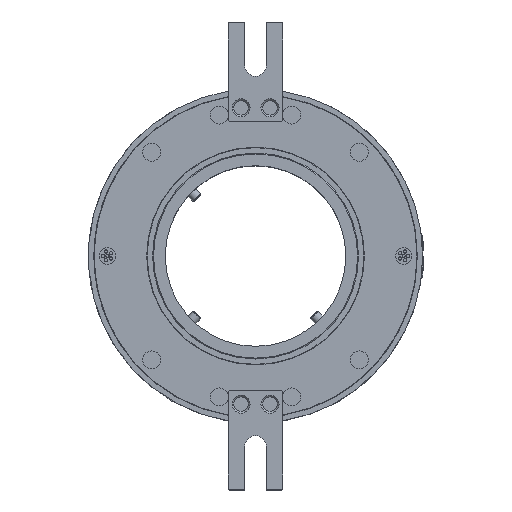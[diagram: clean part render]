
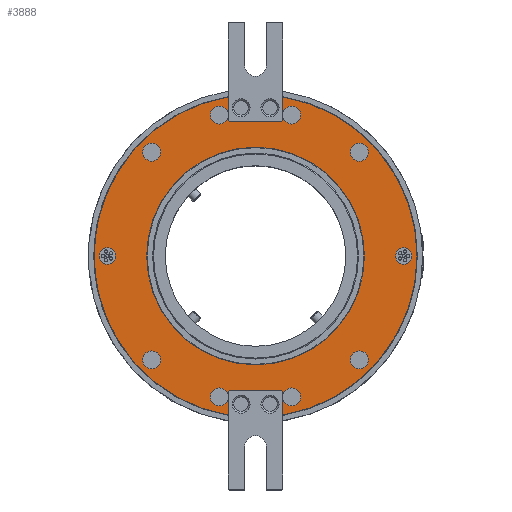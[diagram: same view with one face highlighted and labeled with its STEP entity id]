
A CAD part, top view. The second image highlights one B-rep face of the part: STEP entity #3888.
In plain terms, the highlighted planar face has unit normal (0, 0, 1).
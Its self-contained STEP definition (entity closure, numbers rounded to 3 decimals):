
#3080=FACE_BOUND('',#5857,.T.);
#3081=FACE_BOUND('',#5858,.T.);
#3082=FACE_BOUND('',#5859,.T.);
#3083=FACE_BOUND('',#5860,.T.);
#3084=FACE_BOUND('',#5861,.T.);
#3085=FACE_BOUND('',#5862,.T.);
#3086=FACE_BOUND('',#5863,.T.);
#3087=FACE_BOUND('',#5864,.T.);
#3352=PLANE('',#17178);
#3888=ADVANCED_FACE('',(#3080,#3081,#3082,#3083,#3084,#3085,#3086,#3087),
#3352,.T.);
#5857=EDGE_LOOP('',(#9321));
#5858=EDGE_LOOP('',(#9322));
#5859=EDGE_LOOP('',(#9323));
#5860=EDGE_LOOP('',(#9324));
#5861=EDGE_LOOP('',(#9325));
#5862=EDGE_LOOP('',(#9326));
#5863=EDGE_LOOP('',(#9327,#9328,#9329,#9330,#9331,#9332,#9333,#9334,#9335,
#9336,#9337,#9338,#9339,#9340,#9341,#9342,#9343,#9344,#9345,#9346));
#5864=EDGE_LOOP('',(#9347));
#6736=LINE('',#23456,#7156);
#6739=LINE('',#23462,#7159);
#6741=LINE('',#23466,#7161);
#6743=LINE('',#23479,#7163);
#6746=LINE('',#23485,#7166);
#6748=LINE('',#23489,#7168);
#6750=LINE('',#23508,#7170);
#6751=LINE('',#23509,#7171);
#6770=LINE('',#23550,#7190);
#6771=LINE('',#23551,#7191);
#6772=LINE('',#23553,#7192);
#6773=LINE('',#23554,#7193);
#6792=LINE('',#23592,#7212);
#6793=LINE('',#23593,#7213);
#7156=VECTOR('',#18211,1.);
#7159=VECTOR('',#18216,1.);
#7161=VECTOR('',#18220,1.);
#7163=VECTOR('',#18238,1.);
#7166=VECTOR('',#18243,1.);
#7168=VECTOR('',#18247,1.);
#7170=VECTOR('',#18271,1.);
#7171=VECTOR('',#18272,1.);
#7190=VECTOR('',#18315,1.);
#7191=VECTOR('',#18316,1.);
#7192=VECTOR('',#18319,1.);
#7193=VECTOR('',#18320,1.);
#7212=VECTOR('',#18357,1.);
#7213=VECTOR('',#18358,1.);
#9321=ORIENTED_EDGE('',*,*,#14807,.T.);
#9322=ORIENTED_EDGE('',*,*,#14806,.T.);
#9323=ORIENTED_EDGE('',*,*,#14805,.T.);
#9324=ORIENTED_EDGE('',*,*,#14804,.T.);
#9325=ORIENTED_EDGE('',*,*,#14803,.T.);
#9326=ORIENTED_EDGE('',*,*,#15370,.T.);
#9327=ORIENTED_EDGE('',*,*,#14808,.F.);
#9328=ORIENTED_EDGE('',*,*,#14801,.T.);
#9329=ORIENTED_EDGE('',*,*,#14799,.F.);
#9330=ORIENTED_EDGE('',*,*,#14796,.T.);
#9331=ORIENTED_EDGE('',*,*,#14832,.F.);
#9332=ORIENTED_EDGE('',*,*,#14795,.T.);
#9333=ORIENTED_EDGE('',*,*,#14831,.F.);
#9334=ORIENTED_EDGE('',*,*,#14793,.F.);
#9335=ORIENTED_EDGE('',*,*,#14834,.F.);
#9336=ORIENTED_EDGE('',*,*,#14792,.T.);
#9337=ORIENTED_EDGE('',*,*,#14833,.F.);
#9338=ORIENTED_EDGE('',*,*,#14790,.T.);
#9339=ORIENTED_EDGE('',*,*,#14788,.F.);
#9340=ORIENTED_EDGE('',*,*,#14785,.T.);
#9341=ORIENTED_EDGE('',*,*,#14855,.F.);
#9342=ORIENTED_EDGE('',*,*,#14784,.T.);
#9343=ORIENTED_EDGE('',*,*,#14854,.F.);
#9344=ORIENTED_EDGE('',*,*,#14794,.F.);
#9345=ORIENTED_EDGE('',*,*,#14809,.F.);
#9346=ORIENTED_EDGE('',*,*,#14783,.T.);
#9347=ORIENTED_EDGE('',*,*,#14782,.T.);
#12839=VERTEX_POINT('',#21500);
#12840=VERTEX_POINT('',#21501);
#12855=VERTEX_POINT('',#21534);
#12856=VERTEX_POINT('',#21535);
#12993=VERTEX_POINT('',#23448);
#12994=VERTEX_POINT('',#23451);
#12995=VERTEX_POINT('',#23454);
#12996=VERTEX_POINT('',#23457);
#12997=VERTEX_POINT('',#23458);
#12998=VERTEX_POINT('',#23463);
#12999=VERTEX_POINT('',#23467);
#13000=VERTEX_POINT('',#23471);
#13001=VERTEX_POINT('',#23477);
#13002=VERTEX_POINT('',#23480);
#13003=VERTEX_POINT('',#23481);
#13004=VERTEX_POINT('',#23486);
#13005=VERTEX_POINT('',#23490);
#13006=VERTEX_POINT('',#23494);
#13007=VERTEX_POINT('',#23497);
#13008=VERTEX_POINT('',#23500);
#13009=VERTEX_POINT('',#23503);
#13010=VERTEX_POINT('',#23506);
#13545=VERTEX_POINT('',#28687);
#14782=EDGE_CURVE('',#12993,#12993,#16820,.T.);
#14783=EDGE_CURVE('',#12994,#12994,#16821,.T.);
#14784=EDGE_CURVE('',#12995,#12995,#16822,.T.);
#14785=EDGE_CURVE('',#12996,#12997,#6736,.T.);
#14788=EDGE_CURVE('',#12996,#12998,#6739,.T.);
#14790=EDGE_CURVE('',#12999,#12998,#6741,.T.);
#14792=EDGE_CURVE('',#13000,#13000,#16823,.T.);
#14793=EDGE_CURVE('',#12856,#12839,#16824,.T.);
#14794=EDGE_CURVE('',#12840,#12855,#16825,.T.);
#14795=EDGE_CURVE('',#13001,#13001,#16826,.T.);
#14796=EDGE_CURVE('',#13002,#13003,#6743,.T.);
#14799=EDGE_CURVE('',#13002,#13004,#6746,.T.);
#14801=EDGE_CURVE('',#13005,#13004,#6748,.T.);
#14803=EDGE_CURVE('',#13006,#13006,#16827,.T.);
#14804=EDGE_CURVE('',#13007,#13007,#16828,.T.);
#14805=EDGE_CURVE('',#13008,#13008,#16829,.T.);
#14806=EDGE_CURVE('',#13009,#13009,#16830,.T.);
#14807=EDGE_CURVE('',#13010,#13010,#16831,.T.);
#14808=EDGE_CURVE('',#13005,#12994,#6750,.T.);
#14809=EDGE_CURVE('',#12994,#12840,#6751,.T.);
#14831=EDGE_CURVE('',#12839,#13001,#6770,.T.);
#14832=EDGE_CURVE('',#13001,#13003,#6771,.T.);
#14833=EDGE_CURVE('',#12999,#13000,#6772,.T.);
#14834=EDGE_CURVE('',#13000,#12856,#6773,.T.);
#14854=EDGE_CURVE('',#12855,#12995,#6792,.T.);
#14855=EDGE_CURVE('',#12995,#12997,#6793,.T.);
#15370=EDGE_CURVE('',#13545,#13545,#16836,.T.);
#16820=CIRCLE('',#17125,4.5);
#16821=CIRCLE('',#17127,5.);
#16822=CIRCLE('',#17129,5.);
#16823=CIRCLE('',#17134,5.);
#16824=CIRCLE('',#17136,89.4);
#16825=CIRCLE('',#17137,89.4);
#16826=CIRCLE('',#17139,5.);
#16827=CIRCLE('',#17144,5.);
#16828=CIRCLE('',#17146,4.5);
#16829=CIRCLE('',#17148,5.);
#16830=CIRCLE('',#17150,5.);
#16831=CIRCLE('',#17152,5.);
#16836=CIRCLE('',#17177,60.25);
#17125=AXIS2_PLACEMENT_3D('',#23447,#18199,#18200);
#17127=AXIS2_PLACEMENT_3D('',#23450,#18203,#18204);
#17129=AXIS2_PLACEMENT_3D('',#23453,#18207,#18208);
#17134=AXIS2_PLACEMENT_3D('',#23470,#18224,#18225);
#17136=AXIS2_PLACEMENT_3D('',#23473,#18228,#18229);
#17137=AXIS2_PLACEMENT_3D('',#23474,#18230,#18231);
#17139=AXIS2_PLACEMENT_3D('',#23476,#18234,#18235);
#17144=AXIS2_PLACEMENT_3D('',#23493,#18251,#18252);
#17146=AXIS2_PLACEMENT_3D('',#23496,#18255,#18256);
#17148=AXIS2_PLACEMENT_3D('',#23499,#18259,#18260);
#17150=AXIS2_PLACEMENT_3D('',#23502,#18263,#18264);
#17152=AXIS2_PLACEMENT_3D('',#23505,#18267,#18268);
#17177=AXIS2_PLACEMENT_3D('',#28686,#18412,#18413);
#17178=AXIS2_PLACEMENT_3D('',#28688,#18414,#18415);
#18199=DIRECTION('',(0.,0.,-1.));
#18200=DIRECTION('',(1.,0.,0.));
#18203=DIRECTION('',(0.,0.,-1.));
#18204=DIRECTION('',(-1.,0.,0.));
#18207=DIRECTION('',(0.,0.,-1.));
#18208=DIRECTION('',(-1.,0.,0.));
#18211=DIRECTION('',(-0.707,0.707,0.));
#18216=DIRECTION('',(1.,0.,0.));
#18220=DIRECTION('',(-0.707,-0.707,0.));
#18224=DIRECTION('',(0.,0.,-1.));
#18225=DIRECTION('',(-1.,0.,0.));
#18228=DIRECTION('',(0.,0.,-1.));
#18229=DIRECTION('',(1.,0.,0.));
#18230=DIRECTION('',(0.,0.,-1.));
#18231=DIRECTION('',(1.,0.,0.));
#18234=DIRECTION('',(0.,0.,-1.));
#18235=DIRECTION('',(-1.,0.,0.));
#18238=DIRECTION('',(0.707,-0.707,0.));
#18243=DIRECTION('',(-1.,0.,0.));
#18247=DIRECTION('',(0.707,0.707,0.));
#18251=DIRECTION('',(0.,0.,-1.));
#18252=DIRECTION('',(-1.,0.,0.));
#18255=DIRECTION('',(0.,0.,-1.));
#18256=DIRECTION('',(-1.,0.,0.));
#18259=DIRECTION('',(0.,0.,-1.));
#18260=DIRECTION('',(-1.,0.,0.));
#18263=DIRECTION('',(0.,0.,-1.));
#18264=DIRECTION('',(-1.,0.,0.));
#18267=DIRECTION('',(0.,0.,-1.));
#18268=DIRECTION('',(-1.,0.,0.));
#18271=DIRECTION('',(0.,-1.,0.));
#18272=DIRECTION('',(0.,-1.,0.));
#18315=DIRECTION('',(0.,1.,0.));
#18316=DIRECTION('',(0.,1.,0.));
#18319=DIRECTION('',(0.,1.,0.));
#18320=DIRECTION('',(0.,1.,0.));
#18357=DIRECTION('',(0.,-1.,0.));
#18358=DIRECTION('',(0.,-1.,0.));
#18412=DIRECTION('',(0.,0.,-1.));
#18413=DIRECTION('',(1.,0.,0.));
#18414=DIRECTION('',(0.,0.,1.));
#18415=DIRECTION('',(1.,0.,0.));
#21500=CARTESIAN_POINT('',(15.,-88.133,101.5));
#21501=CARTESIAN_POINT('',(-15.,-88.133,101.5));
#21534=CARTESIAN_POINT('',(-15.,88.133,101.5));
#21535=CARTESIAN_POINT('',(15.,88.133,101.5));
#23447=CARTESIAN_POINT('',(-82.,0.,101.5));
#23448=CARTESIAN_POINT('',(-77.5,0.,101.5));
#23450=CARTESIAN_POINT('',(-20.,-78.,101.5));
#23451=CARTESIAN_POINT('',(-15.,-78.,101.5));
#23453=CARTESIAN_POINT('',(-20.,78.,101.5));
#23454=CARTESIAN_POINT('',(-15.,78.,101.5));
#23456=CARTESIAN_POINT('',(-21.,81.,101.5));
#23457=CARTESIAN_POINT('',(-14.5,74.5,101.5));
#23458=CARTESIAN_POINT('',(-15.,75.,101.5));
#23462=CARTESIAN_POINT('',(0.,74.5,101.5));
#23463=CARTESIAN_POINT('',(14.5,74.5,101.5));
#23466=CARTESIAN_POINT('',(21.,81.,101.5));
#23467=CARTESIAN_POINT('',(15.,75.,101.5));
#23470=CARTESIAN_POINT('',(20.,78.,101.5));
#23471=CARTESIAN_POINT('',(15.,78.,101.5));
#23473=CARTESIAN_POINT('',(0.,0.,101.5));
#23474=CARTESIAN_POINT('',(0.,0.,101.5));
#23476=CARTESIAN_POINT('',(20.,-78.,101.5));
#23477=CARTESIAN_POINT('',(15.,-78.,101.5));
#23479=CARTESIAN_POINT('',(21.,-81.,101.5));
#23480=CARTESIAN_POINT('',(14.5,-74.5,101.5));
#23481=CARTESIAN_POINT('',(15.,-75.,101.5));
#23485=CARTESIAN_POINT('',(0.,-74.5,101.5));
#23486=CARTESIAN_POINT('',(-14.5,-74.5,101.5));
#23489=CARTESIAN_POINT('',(-21.,-81.,101.5));
#23490=CARTESIAN_POINT('',(-15.,-75.,101.5));
#23493=CARTESIAN_POINT('',(57.5,57.5,101.5));
#23494=CARTESIAN_POINT('',(52.5,57.5,101.5));
#23496=CARTESIAN_POINT('',(82.,0.,101.5));
#23497=CARTESIAN_POINT('',(77.5,0.,101.5));
#23499=CARTESIAN_POINT('',(57.5,-57.5,101.5));
#23500=CARTESIAN_POINT('',(52.5,-57.5,101.5));
#23502=CARTESIAN_POINT('',(-57.5,-57.5,101.5));
#23503=CARTESIAN_POINT('',(-62.5,-57.5,101.5));
#23505=CARTESIAN_POINT('',(-57.5,57.5,101.5));
#23506=CARTESIAN_POINT('',(-62.5,57.5,101.5));
#23508=CARTESIAN_POINT('',(-15.,-102.,101.5));
#23509=CARTESIAN_POINT('',(-15.,-102.,101.5));
#23550=CARTESIAN_POINT('',(15.,-102.,101.5));
#23551=CARTESIAN_POINT('',(15.,-102.,101.5));
#23553=CARTESIAN_POINT('',(15.,102.,101.5));
#23554=CARTESIAN_POINT('',(15.,102.,101.5));
#23592=CARTESIAN_POINT('',(-15.,102.,101.5));
#23593=CARTESIAN_POINT('',(-15.,102.,101.5));
#28686=CARTESIAN_POINT('',(0.,0.,101.5));
#28687=CARTESIAN_POINT('',(60.25,0.,101.5));
#28688=CARTESIAN_POINT('',(0.,0.,101.5));
